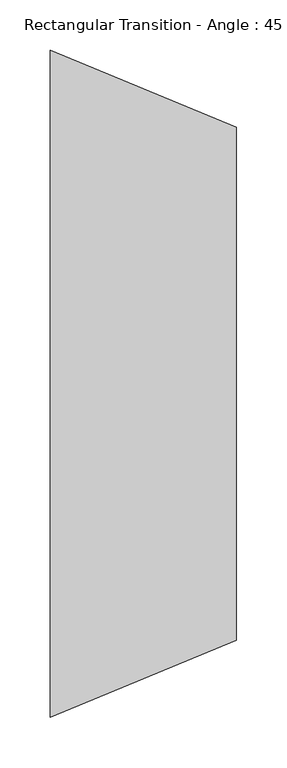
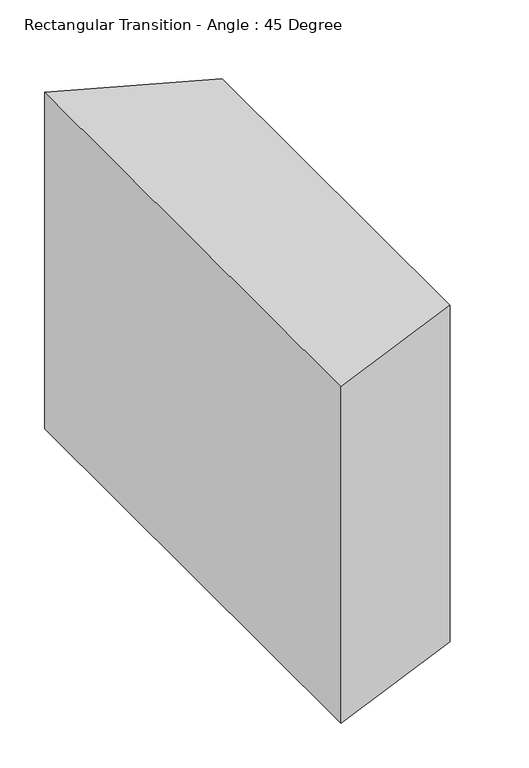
"""IFC4 building model written with IfcOpenShell, lengths in millimetres: duct fitting geometry, Rectangular Transition - Angle : 45 Degree."""

import ifcopenshell
import ifcopenshell.guid

model = None  # the IFC model being written
_history = None  # IfcOwnerHistory: only IFC2X3 demands one
_inside = {}  # id of a spatial element -> (the spatial element, [elements in it])
_under = {}  # id of a project, library or spatial element -> (it, [spatial elements below it])
_declared = {}  # id of a project -> (the project, [libraries it declares])
_typed = {}  # id of a type object -> (the type object, [elements of that type])
_made_of = {}  # id of a material, layer set ... -> (it, [elements and type objects made of it])


def new_model(schema):
    """Start an empty IFC model of exactly this schema.

    Asked for "IFC4X3", IfcOpenShell would pick the latest addendum, in which some entities
    have other attributes; the version numbers below select the first issue.
    IFC2X3 requires an IfcOwnerHistory on every rooted entity: one is made here for all.
    """
    global model, _history
    if schema == "IFC4X3":
        model = ifcopenshell.file(schema_version=(4, 3, 0, 0))
    else:
        model = ifcopenshell.file(schema=schema)
    _inside.clear()
    _under.clear()
    _declared.clear()
    _typed.clear()
    _made_of.clear()
    _history = None
    if model.schema == "IFC2X3":
        org = make("IfcOrganization", Name="unknown")
        user = make(
            "IfcPersonAndOrganization",
            ThePerson=make("IfcPerson", FamilyName="unknown"),
            TheOrganization=org,
        )
        app = make(
            "IfcApplication",
            ApplicationDeveloper=org,
            Version="unknown",
            ApplicationFullName="unknown",
            ApplicationIdentifier="unknown",
        )
        _history = make(
            "IfcOwnerHistory",
            OwningUser=user,
            OwningApplication=app,
            ChangeAction="ADDED",
            CreationDate=0,
        )
    return model


def make(cls, **values):
    """One entity of the class cls with the attributes given. An attribute that is None is left unset."""
    return model.create_entity(
        cls, **{name: value for name, value in values.items() if value is not None}
    )


def rooted(cls, **values):
    """An entity with a GlobalId (a new one), such as an element, a storey or a relation."""
    return make(cls, GlobalId=ifcopenshell.guid.new(), OwnerHistory=_history, **values)


def si_unit(unit_type, name, prefix=None):
    """IfcSIUnit, for example si_unit("LENGTHUNIT", "METRE", prefix="MILLI")."""
    return make("IfcSIUnit", UnitType=unit_type, Prefix=prefix, Name=name)


def assignment(units):
    """IfcUnitAssignment: the units of a project."""
    return None if units is None else make("IfcUnitAssignment", Units=units)


def point(xyz):
    """IfcCartesianPoint."""
    return None if xyz is None else make("IfcCartesianPoint", Coordinates=xyz)


def direction(xyz):
    """IfcDirection."""
    return None if xyz is None else make("IfcDirection", DirectionRatios=xyz)


def frame(location, z_axis=None, x_axis=None):
    """IfcAxis2Placement3D, a coordinate frame: its origin and axes. An axis left out is left unset."""
    return make(
        "IfcAxis2Placement3D",
        Location=point(location),
        Axis=direction(z_axis),
        RefDirection=direction(x_axis),
    )


def origin():
    """The frame at (0, 0, 0) with its axes left unset."""
    return frame((0.0, 0.0, 0.0))


def place(relative_to, where):
    """IfcLocalPlacement: puts the frame where relative to a parent placement (None: the world)."""
    return make(
        "IfcLocalPlacement", PlacementRelTo=relative_to, RelativePlacement=where
    )


def context(
    kind, dimensions, precision=None, world=None, true_north=None, identifier=None
):
    """IfcGeometricRepresentationContext, for example the 3D "Model" context."""
    return make(
        "IfcGeometricRepresentationContext",
        ContextIdentifier=identifier,
        ContextType=kind,
        CoordinateSpaceDimension=dimensions,
        Precision=precision,
        WorldCoordinateSystem=world,
        TrueNorth=true_north,
    )


def project(units=None, contexts=None):
    """IfcProject with its units and contexts."""
    return rooted(
        "IfcProject",
        Name="project",
        RepresentationContexts=contexts,
        UnitsInContext=assignment(units),
    )


def spatial(cls, under=None, at=None, **own):
    """A site, building, storey or space (cls), placed at a placement, below another one or the project."""
    s = rooted(cls, ObjectPlacement=at, **own)
    if under is not None:
        _under.setdefault(under.id(), (under, []))[1].append(s)
    return s


def polyline(points):
    """IfcPolyline through the points."""
    return make("IfcPolyline", Points=[point(p) for p in points])


def outline(outer, holes=None, kind="AREA"):
    """IfcArbitraryClosedProfileDef: a profile drawn as a closed curve; with holes, ...WithVoids."""
    if holes is None:
        return make("IfcArbitraryClosedProfileDef", ProfileType=kind, OuterCurve=outer)
    return make(
        "IfcArbitraryProfileDefWithVoids",
        ProfileType=kind,
        OuterCurve=outer,
        InnerCurves=holes,
    )


def extrude(swept, where, along, depth):
    """IfcExtrudedAreaSolid: the profile swept, set in the frame where, extruded along a direction by depth."""
    return make(
        "IfcExtrudedAreaSolid",
        SweptArea=swept,
        Position=where,
        ExtrudedDirection=direction(along),
        Depth=depth,
    )


def shape(context_of_items, identifier, shape_type, items):
    """IfcShapeRepresentation: the items that make up one representation, for example the "Body"."""
    return make(
        "IfcShapeRepresentation",
        ContextOfItems=context_of_items,
        RepresentationIdentifier=identifier,
        RepresentationType=shape_type,
        Items=items,
    )


def source(mapping_origin, context_of_items, identifier, shape_type, items):
    """IfcRepresentationMap: a shape defined once, which mapped items show again and again."""
    return make(
        "IfcRepresentationMap",
        MappingOrigin=mapping_origin,
        MappedRepresentation=shape(context_of_items, identifier, shape_type, items),
    )


def transform(
    local_origin,
    x_axis=None,
    y_axis=None,
    z_axis=None,
    scale=None,
    scale2=None,
    scale3=None,
    uniform=True,
):
    """IfcCartesianTransformationOperator3D, or its non-uniform kind. x_axis, y_axis, z_axis: its Axis1, 2, 3."""
    if uniform:
        return make(
            "IfcCartesianTransformationOperator3D",
            Axis1=direction(x_axis),
            Axis2=direction(y_axis),
            LocalOrigin=point(local_origin),
            Scale=scale,
            Axis3=direction(z_axis),
        )
    return make(
        "IfcCartesianTransformationOperator3DnonUniform",
        Axis1=direction(x_axis),
        Axis2=direction(y_axis),
        LocalOrigin=point(local_origin),
        Scale=scale,
        Axis3=direction(z_axis),
        Scale2=scale2,
        Scale3=scale3,
    )


def mapped(mapping_source, mapping_target):
    """IfcMappedItem: shows the shape of a source again, moved by a transform."""
    return make(
        "IfcMappedItem", MappingSource=mapping_source, MappingTarget=mapping_target
    )


def made_of(thing, what):
    """Note that an element or type object is made of a material, layer set ...; save() writes the relation."""
    if what is not None:
        _made_of.setdefault(what.id(), (what, []))[1].append(thing)
    return thing


def element(
    cls,
    number,
    at=None,
    inside=None,
    cuts=None,
    type_object=None,
    material=None,
    context=None,
    identifier="Body",
    shape_type=None,
    held_by="IfcProductDefinitionShape",
    body=None,
    shapes=None,
    **own,
):
    """One element of the class cls, such as IfcWall. Its Tag is "e" and its number.

    at: its placement. inside: the storey or other place that contains it. cuts: it is an
    opening in that element (IfcRelVoidsElement). A single representation is given by context,
    identifier, shape_type and body (its items); several are given by shapes. held_by: the class
    of the entity that holds the representations. save() writes the other relations.
    """
    e = rooted(cls, Tag="e%d" % number, ObjectPlacement=at, **own)
    if body is not None:
        shapes = [shape(context, identifier, shape_type, body)]
    if shapes is not None:
        e.Representation = make(held_by, Representations=shapes)
    if inside is not None:
        _inside.setdefault(inside.id(), (inside, []))[1].append(e)
    if cuts is not None:
        rooted(
            "IfcRelVoidsElement", RelatingBuildingElement=cuts, RelatedOpeningElement=e
        )
    if type_object is not None:
        _typed.setdefault(type_object.id(), (type_object, []))[1].append(e)
    return made_of(e, material)


def aggregate(whole, parts):
    """IfcRelAggregates: a whole, such as a stair, and the parts it consists of."""
    return rooted("IfcRelAggregates", RelatingObject=whole, RelatedObjects=parts)


def save(model, path):
    """Write the relations noted so far, then the file.

    IfcRelAggregates (storeys below a building ...), IfcRelContainedInSpatialStructure (elements
    in a storey), IfcRelDefinesByType, IfcRelAssociatesMaterial and IfcRelDeclares: one each for
    every whole, place, type object, material and project.
    """
    for whole, parts in _under.values():
        aggregate(whole, parts)
    for where, things in _inside.values():
        rooted(
            "IfcRelContainedInSpatialStructure",
            RelatedElements=things,
            RelatingStructure=where,
        )
    for kind, things in _typed.values():
        rooted("IfcRelDefinesByType", RelatedObjects=things, RelatingType=kind)
    for what, things in _made_of.values():
        rooted("IfcRelAssociatesMaterial", RelatedObjects=things, RelatingMaterial=what)
    for by, libraries in _declared.values():
        rooted("IfcRelDeclares", RelatingContext=by, RelatedDefinitions=libraries)
    model.write(path)


def rectangular_transition_angle_45_degree_4f42cd9e(model_context):
    return source(origin(), model_context, "Body", "SweptSolid", [
        extrude(outline(polyline([(0.0, -330.2), (0.0, 330.2), (183.9630735, 254.0), (183.9630735, -254.0), (0.0, -330.2)])), frame((0.0, 0.0, -228.6), z_axis=(0.0, 0.0, 1.0), x_axis=(1.0, 0.0, 0.0)), (0.0, 0.0, 1.0), 457.2),
    ])


if __name__ == "__main__":
    model = new_model("IFC4")
    model_context = context("Model", 3, world=origin())
    ifc_project = project(units=[si_unit("LENGTHUNIT", "METRE", prefix="MILLI")], contexts=[model_context])
    site = spatial("IfcSite", under=ifc_project)
    building = spatial("IfcBuilding", under=site)
    placement = place(None, origin())
    rectangular_transition_angle_45_degree_shape = rectangular_transition_angle_45_degree_4f42cd9e(model_context)
    element("IfcDuctFitting", 1, ObjectType="Rectangular Transition - Angle : 45 Degree", at=placement, inside=building, context=model_context, shape_type="MappedRepresentation", body=[
        mapped(rectangular_transition_angle_45_degree_shape, transform((0.0, 0.0, 0.0), x_axis=(1.0, 0.0, 0.0), y_axis=(0.0, 1.0, 0.0), z_axis=(0.0, 0.0, 1.0))),
    ])
    save(model, "model.ifc")
